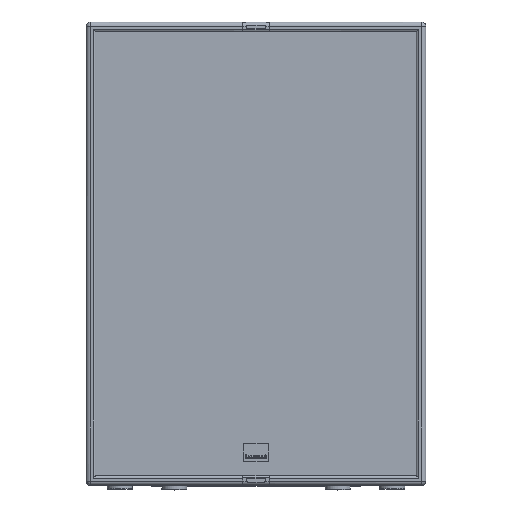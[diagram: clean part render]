
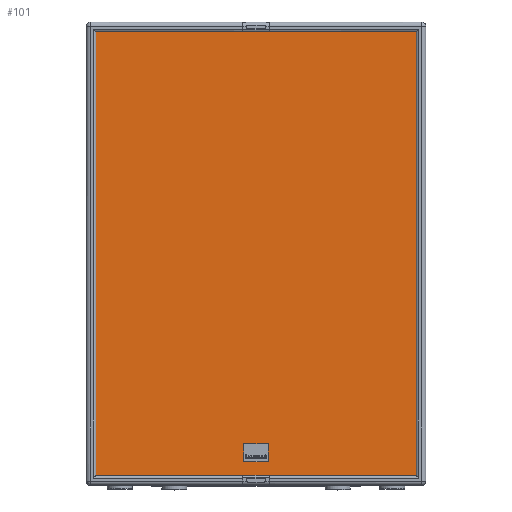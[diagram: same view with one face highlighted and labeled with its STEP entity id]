
A CAD part, top view. The second image highlights one B-rep face of the part: STEP entity #101.
In plain terms, the highlighted planar face has unit normal (0, 0, 1) as drawn and (0, -1, 0) by its records, which use the part's own axes.
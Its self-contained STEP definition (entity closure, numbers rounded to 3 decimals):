
#88 = VERTEX_POINT ( 'NONE', #6992 ) ;
#89 = ORIENTED_EDGE ( 'NONE', *, *, #90, .F. ) ;
#90 = EDGE_CURVE ( 'NONE', #2939, #92, #6991, .T. ) ;
#91 = ORIENTED_EDGE ( 'NONE', *, *, #94, .F. ) ;
#92 = VERTEX_POINT ( 'NONE', #6987 ) ;
#93 = EDGE_LOOP ( 'NONE', ( #91, #89, #2940, #2943 ) ) ;
#94 = EDGE_CURVE ( 'NONE', #92, #88, #6986, .T. ) ;
#101 = ADVANCED_FACE ( 'NONE', ( #7037 ), #7034, .T. ) ;
#2939 = VERTEX_POINT ( 'NONE', #15866 ) ;
#2940 = ORIENTED_EDGE ( 'NONE', *, *, #2941, .T. ) ;
#2941 = EDGE_CURVE ( 'NONE', #2939, #2942, #15865, .T. ) ;
#2942 = VERTEX_POINT ( 'NONE', #15860 ) ;
#2943 = ORIENTED_EDGE ( 'NONE', *, *, #2944, .F. ) ;
#2944 = EDGE_CURVE ( 'NONE', #88, #2942, #15859, .T. ) ;
#6983 = DIRECTION ( 'NONE',  ( -1., 0., 0. ) ) ;
#6984 = VECTOR ( 'NONE', #6983, 1000. ) ;
#6985 = CARTESIAN_POINT ( 'NONE',  ( 256., 4., 0. ) ) ;
#6986 = LINE ( 'NONE', #6985, #6984 ) ;
#6987 = CARTESIAN_POINT ( 'NONE',  ( 497., 4., 0. ) ) ;
#6988 = DIRECTION ( 'NONE',  ( 0., 0., -1. ) ) ;
#6989 = VECTOR ( 'NONE', #6988, 1000. ) ;
#6990 = CARTESIAN_POINT ( 'NONE',  ( 497., 4., 0. ) ) ;
#6991 = LINE ( 'NONE', #6990, #6989 ) ;
#6992 = CARTESIAN_POINT ( 'NONE',  ( 15., 4., 0. ) ) ;
#7030 = DIRECTION ( 'NONE',  ( 0., 0., -1. ) ) ;
#7031 = DIRECTION ( 'NONE',  ( 0., -1., 0. ) ) ;
#7032 = CARTESIAN_POINT ( 'NONE',  ( 497., 4., 0. ) ) ;
#7033 = AXIS2_PLACEMENT_3D ( 'NONE', #7032, #7031, #7030 ) ;
#7034 = PLANE ( 'NONE',  #7033 ) ;
#7037 = FACE_OUTER_BOUND ( 'NONE', #93, .T. ) ;
#15856 = DIRECTION ( 'NONE',  ( 0., 0., 1. ) ) ;
#15857 = VECTOR ( 'NONE', #15856, 1000. ) ;
#15858 = CARTESIAN_POINT ( 'NONE',  ( 15., 4., 0. ) ) ;
#15859 = LINE ( 'NONE', #15858, #15857 ) ;
#15860 = CARTESIAN_POINT ( 'NONE',  ( 15., 4., 668. ) ) ;
#15861 = DIRECTION ( 'NONE',  ( -1., 0., 0. ) ) ;
#15862 = VECTOR ( 'NONE', #15861, 1000. ) ;
#15864 = CARTESIAN_POINT ( 'NONE',  ( 15., 4., 668. ) ) ;
#15865 = LINE ( 'NONE', #15864, #15862 ) ;
#15866 = CARTESIAN_POINT ( 'NONE',  ( 497., 4., 668. ) ) ;
